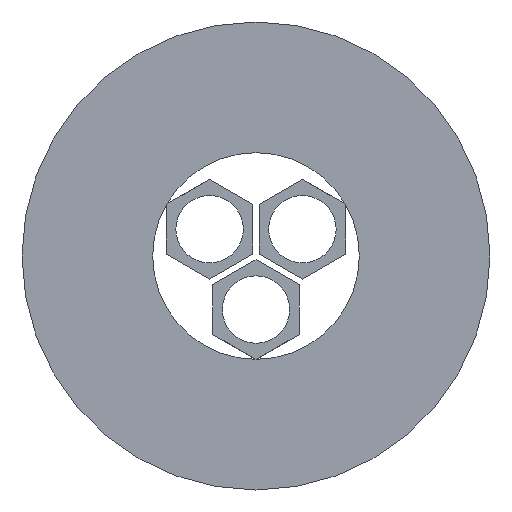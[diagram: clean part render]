
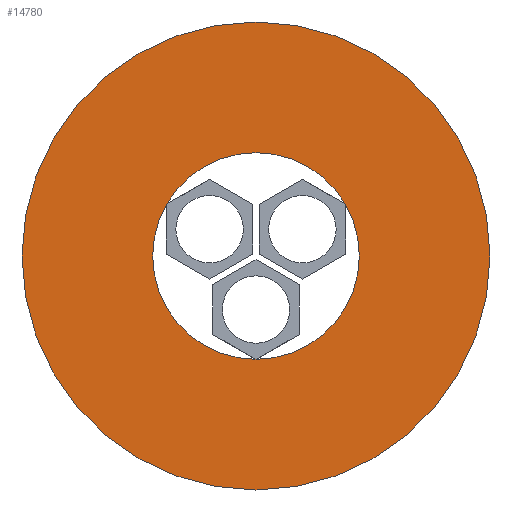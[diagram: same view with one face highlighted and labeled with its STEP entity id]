
A CAD part, front view. The second image highlights one B-rep face of the part: STEP entity #14780.
In plain terms, the highlighted planar face has unit normal (0, -1, 0).
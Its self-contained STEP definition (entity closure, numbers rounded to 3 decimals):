
#13040=CARTESIAN_POINT('',(-309.491,36.935,0.));
#13050=VERTEX_POINT('',#13040);
#13130=CARTESIAN_POINT('',(-329.091,36.935,
0.));
#13140=VERTEX_POINT('',#13130);
#13170=CARTESIAN_POINT('',(-319.291,36.935,0.));
#13180=DIRECTION('',(0.,1.,0.));
#13190=DIRECTION('',(1.,0.,0.));
#13200=AXIS2_PLACEMENT_3D('',#13170,#13180,#13190);
#13210=CIRCLE('',#13200,9.8);
#13220=EDGE_CURVE('',#13140,#13050,#13210,.T.);
#14400=CARTESIAN_POINT('',(-341.491,36.935,0.));
#14410=VERTEX_POINT('',#14400);
#14440=CARTESIAN_POINT('',(-319.291,36.935,0.));
#14450=DIRECTION('',(0.,-1.,0.));
#14460=DIRECTION('',(1.,0.,0.));
#14470=AXIS2_PLACEMENT_3D('',#14440,#14450,#14460);
#14480=CIRCLE('',#14470,22.2);
#14490=CARTESIAN_POINT('',(-297.091,36.935,
0.));
#14500=VERTEX_POINT('',#14490);
#14510=EDGE_CURVE('',#14410,#14500,#14480,.T.);
#14630=CARTESIAN_POINT('',(-308.191,36.935,
0.));
#14640=DIRECTION('',(0.,-1.,0.));
#14650=DIRECTION('',(1.,0.,0.));
#14660=AXIS2_PLACEMENT_3D('',#14630,#14640,#14650);
#14670=PLANE('',#14660);
#14680=EDGE_CURVE('',#14500,#14410,#14480,.T.);
#14690=ORIENTED_EDGE('',*,*,#14680,.T.);
#14700=ORIENTED_EDGE('',*,*,#14510,.T.);
#14710=EDGE_LOOP('',(#14700,#14690));
#14720=FACE_OUTER_BOUND('',#14710,.T.);
#14730=EDGE_CURVE('',#13050,#13140,#13210,.T.);
#14740=ORIENTED_EDGE('',*,*,#14730,.T.);
#14750=ORIENTED_EDGE('',*,*,#13220,.T.);
#14760=EDGE_LOOP('',(#14750,#14740));
#14770=FACE_BOUND('',#14760,.T.);
#14780=ADVANCED_FACE('',(#14720,#14770),#14670,.T.);
